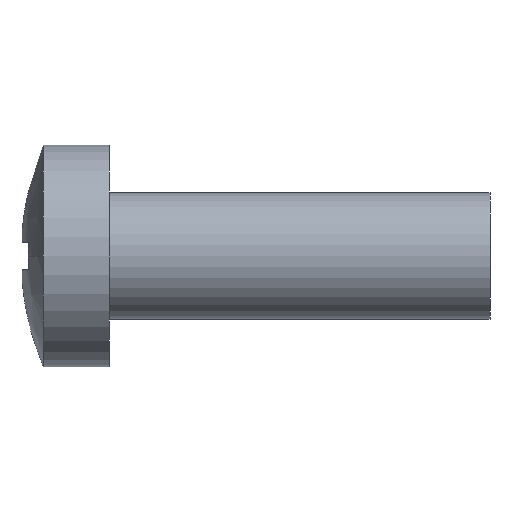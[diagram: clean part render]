
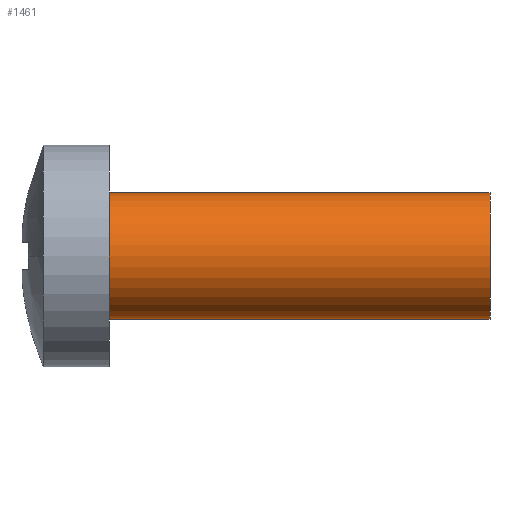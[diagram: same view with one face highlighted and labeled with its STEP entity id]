
A CAD part, front view. The second image highlights one B-rep face of the part: STEP entity #1461.
In plain terms, the highlighted cylindrical face has radius 1 mm (diameter 2 mm), a partial arc.
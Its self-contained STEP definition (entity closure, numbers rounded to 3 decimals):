
#124 = PLANE('',#125);
#125 = AXIS2_PLACEMENT_3D('',#126,#127,#128);
#126 = CARTESIAN_POINT('',(1.4,1.3,0.));
#127 = DIRECTION('',(1.,0.,-0.));
#128 = DIRECTION('',(-0.,0.,-1.));
#212 = VERTEX_POINT('',#213);
#213 = CARTESIAN_POINT('',(1.4,0.,-1.));
#214 = VERTEX_POINT('',#215);
#215 = CARTESIAN_POINT('',(1.4,0.,1.));
#223 = CYLINDRICAL_SURFACE('',#224,1.);
#224 = AXIS2_PLACEMENT_3D('',#225,#226,#227);
#225 = CARTESIAN_POINT('',(4.516,0.,0.));
#226 = DIRECTION('',(1.,-0.,-0.));
#227 = DIRECTION('',(0.,0.,-1.));
#242 = EDGE_CURVE('',#214,#243,#245,.T.);
#243 = VERTEX_POINT('',#244);
#244 = CARTESIAN_POINT('',(7.4,0.,1.));
#245 = SURFACE_CURVE('',#246,(#250,#257),.PCURVE_S1.);
#246 = LINE('',#247,#248);
#247 = CARTESIAN_POINT('',(4.516,0.,1.));
#248 = VECTOR('',#249,1.);
#249 = DIRECTION('',(1.,-0.,-0.));
#250 = PCURVE('',#223,#251);
#251 = DEFINITIONAL_REPRESENTATION('',(#252),#256);
#252 = LINE('',#253,#254);
#253 = CARTESIAN_POINT('',(3.142,0.));
#254 = VECTOR('',#255,1.);
#255 = DIRECTION('',(0.,1.));
#256 = ( GEOMETRIC_REPRESENTATION_CONTEXT(2) 
PARAMETRIC_REPRESENTATION_CONTEXT() REPRESENTATION_CONTEXT('2D SPACE',''
  ) );
#257 = PCURVE('',#258,#263);
#258 = CYLINDRICAL_SURFACE('',#259,1.);
#259 = AXIS2_PLACEMENT_3D('',#260,#261,#262);
#260 = CARTESIAN_POINT('',(4.516,0.,0.));
#261 = DIRECTION('',(1.,-0.,-0.));
#262 = DIRECTION('',(0.,0.,-1.));
#263 = DEFINITIONAL_REPRESENTATION('',(#264),#268);
#264 = LINE('',#265,#266);
#265 = CARTESIAN_POINT('',(3.142,0.));
#266 = VECTOR('',#267,1.);
#267 = DIRECTION('',(0.,1.));
#268 = ( GEOMETRIC_REPRESENTATION_CONTEXT(2) 
PARAMETRIC_REPRESENTATION_CONTEXT() REPRESENTATION_CONTEXT('2D SPACE',''
  ) );
#271 = VERTEX_POINT('',#272);
#272 = CARTESIAN_POINT('',(7.4,0.,-1.));
#287 = PLANE('',#288);
#288 = AXIS2_PLACEMENT_3D('',#289,#290,#291);
#289 = CARTESIAN_POINT('',(7.4,1.,0.));
#290 = DIRECTION('',(1.,0.,-0.));
#291 = DIRECTION('',(-0.,0.,-1.));
#299 = EDGE_CURVE('',#212,#271,#300,.T.);
#300 = SURFACE_CURVE('',#301,(#305,#312),.PCURVE_S1.);
#301 = LINE('',#302,#303);
#302 = CARTESIAN_POINT('',(4.516,0.,-1.));
#303 = VECTOR('',#304,1.);
#304 = DIRECTION('',(1.,-0.,-0.));
#305 = PCURVE('',#223,#306);
#306 = DEFINITIONAL_REPRESENTATION('',(#307),#311);
#307 = LINE('',#308,#309);
#308 = CARTESIAN_POINT('',(0.,0.));
#309 = VECTOR('',#310,1.);
#310 = DIRECTION('',(0.,1.));
#311 = ( GEOMETRIC_REPRESENTATION_CONTEXT(2) 
PARAMETRIC_REPRESENTATION_CONTEXT() REPRESENTATION_CONTEXT('2D SPACE',''
  ) );
#312 = PCURVE('',#258,#313);
#313 = DEFINITIONAL_REPRESENTATION('',(#314),#318);
#314 = LINE('',#315,#316);
#315 = CARTESIAN_POINT('',(6.283,0.));
#316 = VECTOR('',#317,1.);
#317 = DIRECTION('',(0.,1.));
#318 = ( GEOMETRIC_REPRESENTATION_CONTEXT(2) 
PARAMETRIC_REPRESENTATION_CONTEXT() REPRESENTATION_CONTEXT('2D SPACE',''
  ) );
#1440 = EDGE_CURVE('',#243,#271,#1441,.T.);
#1441 = SURFACE_CURVE('',#1442,(#1447,#1454),.PCURVE_S1.);
#1442 = CIRCLE('',#1443,1.);
#1443 = AXIS2_PLACEMENT_3D('',#1444,#1445,#1446);
#1444 = CARTESIAN_POINT('',(7.4,0.,0.));
#1445 = DIRECTION('',(1.,-0.,0.));
#1446 = DIRECTION('',(0.,0.,-1.));
#1447 = PCURVE('',#287,#1448);
#1448 = DEFINITIONAL_REPRESENTATION('',(#1449),#1453);
#1449 = CIRCLE('',#1450,1.);
#1450 = AXIS2_PLACEMENT_2D('',#1451,#1452);
#1451 = CARTESIAN_POINT('',(0.,-1.));
#1452 = DIRECTION('',(1.,0.));
#1453 = ( GEOMETRIC_REPRESENTATION_CONTEXT(2) 
PARAMETRIC_REPRESENTATION_CONTEXT() REPRESENTATION_CONTEXT('2D SPACE',''
  ) );
#1454 = PCURVE('',#258,#1455);
#1455 = DEFINITIONAL_REPRESENTATION('',(#1456),#1460);
#1456 = LINE('',#1457,#1458);
#1457 = CARTESIAN_POINT('',(0.,2.884));
#1458 = VECTOR('',#1459,1.);
#1459 = DIRECTION('',(1.,0.));
#1460 = ( GEOMETRIC_REPRESENTATION_CONTEXT(2) 
PARAMETRIC_REPRESENTATION_CONTEXT() REPRESENTATION_CONTEXT('2D SPACE',''
  ) );
#1461 = ADVANCED_FACE('',(#1462),#258,.T.);
#1462 = FACE_BOUND('',#1463,.T.);
#1463 = EDGE_LOOP('',(#1464,#1465,#1487,#1488));
#1464 = ORIENTED_EDGE('',*,*,#242,.F.);
#1465 = ORIENTED_EDGE('',*,*,#1466,.T.);
#1466 = EDGE_CURVE('',#214,#212,#1467,.T.);
#1467 = SURFACE_CURVE('',#1468,(#1473,#1480),.PCURVE_S1.);
#1468 = CIRCLE('',#1469,1.);
#1469 = AXIS2_PLACEMENT_3D('',#1470,#1471,#1472);
#1470 = CARTESIAN_POINT('',(1.4,0.,0.));
#1471 = DIRECTION('',(1.,-0.,0.));
#1472 = DIRECTION('',(0.,0.,-1.));
#1473 = PCURVE('',#258,#1474);
#1474 = DEFINITIONAL_REPRESENTATION('',(#1475),#1479);
#1475 = LINE('',#1476,#1477);
#1476 = CARTESIAN_POINT('',(0.,-3.116));
#1477 = VECTOR('',#1478,1.);
#1478 = DIRECTION('',(1.,0.));
#1479 = ( GEOMETRIC_REPRESENTATION_CONTEXT(2) 
PARAMETRIC_REPRESENTATION_CONTEXT() REPRESENTATION_CONTEXT('2D SPACE',''
  ) );
#1480 = PCURVE('',#124,#1481);
#1481 = DEFINITIONAL_REPRESENTATION('',(#1482),#1486);
#1482 = CIRCLE('',#1483,1.);
#1483 = AXIS2_PLACEMENT_2D('',#1484,#1485);
#1484 = CARTESIAN_POINT('',(0.,-1.3));
#1485 = DIRECTION('',(1.,0.));
#1486 = ( GEOMETRIC_REPRESENTATION_CONTEXT(2) 
PARAMETRIC_REPRESENTATION_CONTEXT() REPRESENTATION_CONTEXT('2D SPACE',''
  ) );
#1487 = ORIENTED_EDGE('',*,*,#299,.T.);
#1488 = ORIENTED_EDGE('',*,*,#1440,.F.);
